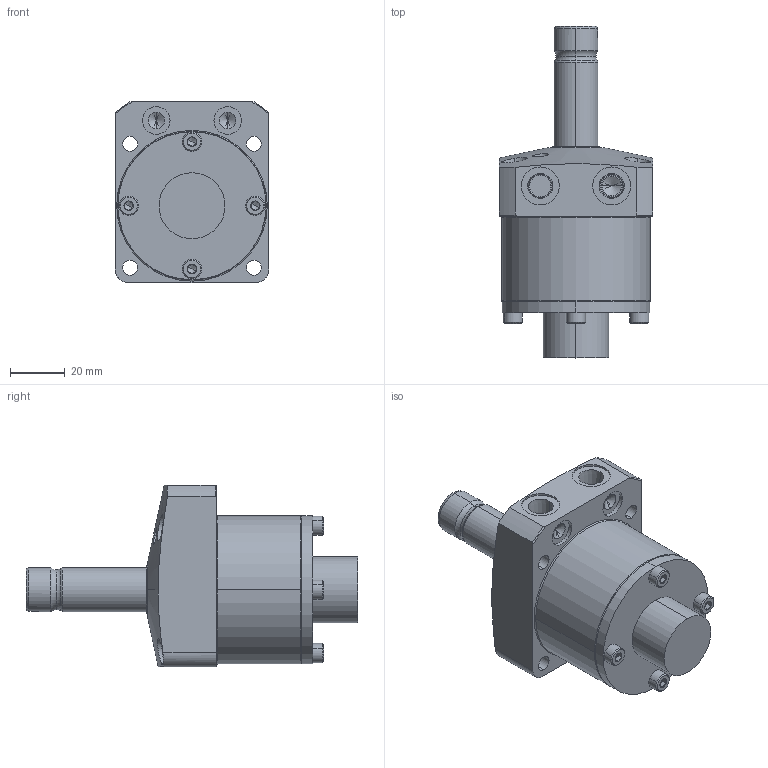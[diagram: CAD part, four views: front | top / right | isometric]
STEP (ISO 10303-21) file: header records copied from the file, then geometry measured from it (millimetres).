
FILE_DESCRIPTION (( 'STEP AP203' ), '1' );
FILE_NAME ('WHA0400-2AL-F.step', '2010-04-14T09:42:24', ( ' ' ), ( ' ' ), 'SwSTEP 2.0', 'SolidWorks 2009', '' );
FILE_SCHEMA (( 'CONFIG_CONTROL_DESIGN' ));
Length unit declared in the file: millimetre
Products named in the file (5): 6妏寠晅无倌_M4_10; WHA0400-2AL-F; WHA0400_槭暌溒3WH100007-00; WHA0400-F丒郫霓; WHA0400_楓羔絻3WH100010-00
Assembly tree (7 placements, depth 2):
  WHA0400-2AL-F
    WHA0400_槭暌溒3WH100007-00
    WHA0400_楓羔絻3WH100010-00
    6妏寠晅无倌_M4_10  x4
    WHA0400-F丒郫霓
Bounding box: 56 x 120.7 x 66 mm (x, y, z)
Volume: 175687.5 mm3; surface area: 32964.3 mm2
Topology: 7 solids, 7 shells, 276 faces, 566 edges, 318 vertices
Faces by surface type: cylinder 97, plane 95, cone 74, torus 10
Entity records: 6266 total; most frequent: CARTESIAN_POINT 1564, DIRECTION 927, ORIENTED_EDGE 792, EDGE_CURVE 396, AXIS2_PLACEMENT_3D 388, VERTEX_POINT 243, EDGE_LOOP 225, CIRCLE 195
